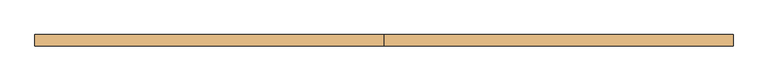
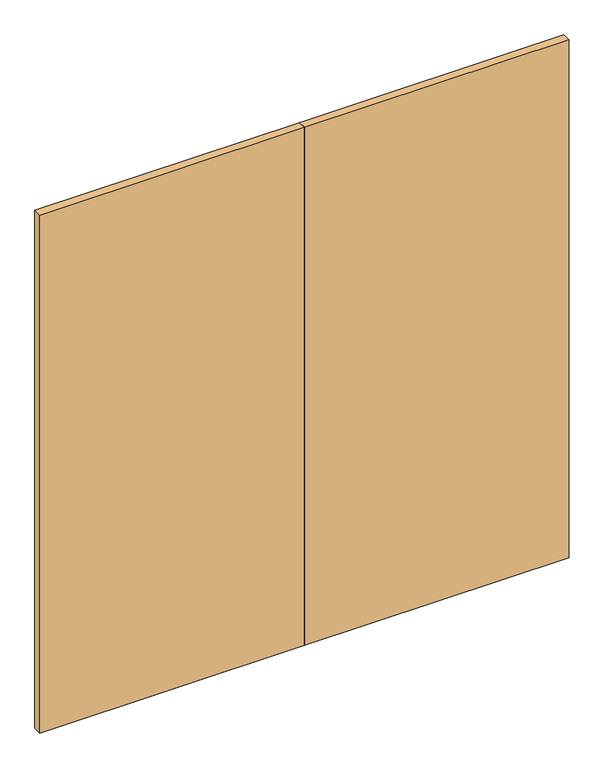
"""IFC4 building model written with IfcOpenShell, lengths in millimetres: door geometry, 営_両開き扉 : SD2 2500*2585."""

from ifc_helpers import new_model, si_unit, origin, origin_with_axes, place, context, project, spatial, polyline, outline, extrude, source, transform, mapped, element, save


def door_8a3642f0(model_context):
    return source(origin(), model_context, "Body", "SweptSolid", [
        extrude(outline(polyline([(0.0, 40.0), (0.0, 80.0), (1250.0, 80.0), (1250.0, 40.0), (0.0, 40.0)])), origin_with_axes(), (0.0, 0.0, 1.0), 2585.0),
        extrude(outline(polyline([(0.0, 40.0), (-1250.0, 40.0), (-1250.0, 80.0), (0.0, 80.0), (0.0, 40.0)])), origin_with_axes(), (0.0, 0.0, 1.0), 2585.0),
    ])


if __name__ == "__main__":
    model = new_model("IFC4")
    model_context = context("Model", 3, world=origin())
    ifc_project = project(units=[si_unit("LENGTHUNIT", "METRE", prefix="MILLI")], contexts=[model_context])
    site = spatial("IfcSite", under=ifc_project)
    building = spatial("IfcBuilding", under=site)
    placement = place(None, origin())
    door_shape = door_8a3642f0(model_context)
    element("IfcDoor", 1, ObjectType="営_両開き扉 : SD2 2500*2585", at=placement, inside=building, context=model_context, shape_type="MappedRepresentation", body=[
        mapped(door_shape, transform((0.0, 0.0, 0.0), x_axis=(1.0, 0.0, 0.0), y_axis=(0.0, 1.0, 0.0), z_axis=(0.0, 0.0, 1.0))),
    ])
    save(model, "model.ifc")
